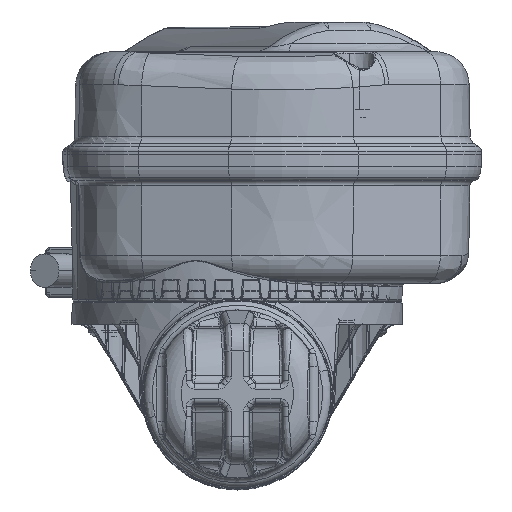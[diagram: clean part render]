
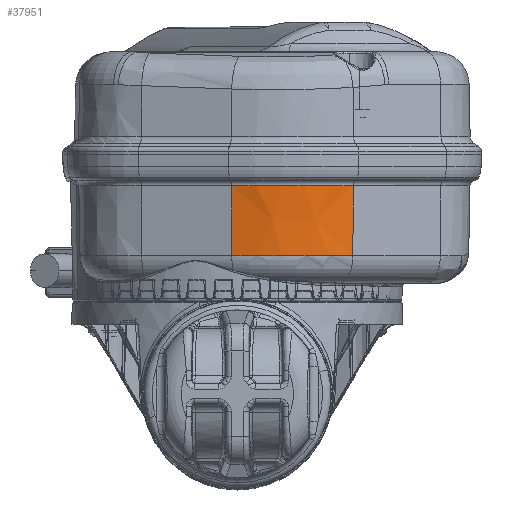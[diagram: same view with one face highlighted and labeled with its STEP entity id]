
A CAD part, top view. The second image highlights one B-rep face of the part: STEP entity #37951.
In plain terms, the highlighted conical face has half-angle 1 degrees and reference radius 29.793 mm.
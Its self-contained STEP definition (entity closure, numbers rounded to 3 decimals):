
#3483=CARTESIAN_POINT('',(6.437,37.185,1.661));
#3484=DIRECTION('',(0.,1.,0.));
#3485=DIRECTION('',(-0.25,0.,0.968));
#3486=AXIS2_PLACEMENT_3D('',#3483,#3484,#3485);
#3488=DIRECTION('',(-0.008,-1.,-0.015));
#3489=VECTOR('',#3488,12.474);
#3490=CARTESIAN_POINT('',(20.705,37.185,27.939));
#3491=LINE('',#3490,#3489);
#3492=CARTESIAN_POINT('',(6.437,24.713,1.661));
#3493=DIRECTION('',(0.,1.,0.));
#3494=DIRECTION('',(-0.25,0.,0.968));
#3495=AXIS2_PLACEMENT_3D('',#3492,#3493,#3494);
#3501=DIRECTION('',(0.004,-1.,-0.017));
#3502=VECTOR('',#3501,12.474);
#3503=CARTESIAN_POINT('',(-1.05,37.185,30.61));
#3504=LINE('',#3503,#3502);
#28717=CARTESIAN_POINT('',(-0.996,24.713,
30.4));
#28718=VERTEX_POINT('',#28717);
#28719=CARTESIAN_POINT('',(20.601,24.713,27.748));
#28720=VERTEX_POINT('',#28719);
#28960=CARTESIAN_POINT('',(-1.05,37.185,
30.61));
#28961=VERTEX_POINT('',#28960);
#28962=CARTESIAN_POINT('',(20.705,37.185,27.939));
#28963=VERTEX_POINT('',#28962);
#37937=CARTESIAN_POINT('',(6.437,30.949,1.661));
#37938=DIRECTION('',(0.,1.,0.));
#37939=DIRECTION('',(0.966,0.,-0.259));
#37940=AXIS2_PLACEMENT_3D('',#37937,#37938,#37939);
#37941=CONICAL_SURFACE('',#37940,29.793,1.);
#37943=ORIENTED_EDGE('',*,*,#37942,.F.);
#37944=ORIENTED_EDGE('',*,*,#37927,.T.);
#37946=ORIENTED_EDGE('',*,*,#37945,.T.);
#37948=ORIENTED_EDGE('',*,*,#37947,.F.);
#37949=EDGE_LOOP('',(#37943,#37944,#37946,#37948));
#37950=FACE_OUTER_BOUND('',#37949,.F.);
#3487=CIRCLE('',#3486,29.902);
#3496=CIRCLE('',#3495,29.684);
#37927=EDGE_CURVE('',#28961,#28963,#3487,.T.);
#37942=EDGE_CURVE('',#28961,#28718,#3504,.T.);
#37945=EDGE_CURVE('',#28963,#28720,#3491,.T.);
#37947=EDGE_CURVE('',#28718,#28720,#3496,.T.);
#37951=ADVANCED_FACE('',(#37950),#37941,.T.);
